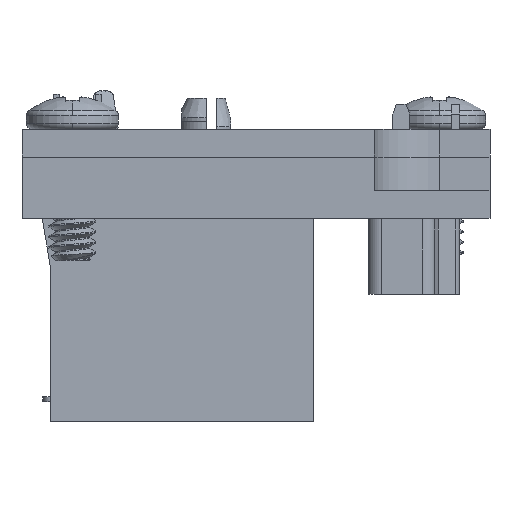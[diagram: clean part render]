
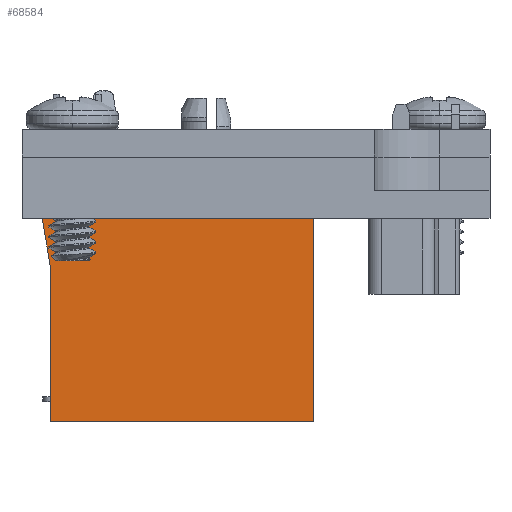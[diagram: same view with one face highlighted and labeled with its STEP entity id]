
A CAD part, front view. The second image highlights one B-rep face of the part: STEP entity #68584.
In plain terms, the highlighted planar face has unit normal (0, -1, 0) as drawn and (1, 0, 0) by its records, which use the part's own axes.
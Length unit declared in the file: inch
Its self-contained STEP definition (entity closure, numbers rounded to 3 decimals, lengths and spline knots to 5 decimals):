
#75 = DIRECTION ( 'NONE',  ( 0., 1., 0. ) ) ;
#1500 = DIRECTION ( 'NONE',  ( 0., -1., 0. ) ) ;
#3058 = EDGE_LOOP ( 'NONE', ( #59377, #80347, #15906, #39242, #50613, #98685, #85255, #30393 ) ) ;
#4485 = CARTESIAN_POINT ( 'NONE',  ( 0.31, -0.325, 0. ) ) ;
#4654 = EDGE_CURVE ( 'NONE', #51238, #18516, #99202, .T. ) ;
#7035 = CARTESIAN_POINT ( 'NONE',  ( 0.31, 0.325, -0.51 ) ) ;
#8308 = DIRECTION ( 'NONE',  ( 0., 0., -1. ) ) ;
#14941 = DIRECTION ( 'NONE',  ( 0., 0., -1. ) ) ;
#15401 = VECTOR ( 'NONE', #1500, 39.37008 ) ;
#15906 = ORIENTED_EDGE ( 'NONE', *, *, #69086, .F. ) ;
#16868 = LINE ( 'NONE', #77845, #15401 ) ;
#18516 = VERTEX_POINT ( 'NONE', #7035 ) ;
#18627 = CARTESIAN_POINT ( 'NONE',  ( 0.31, 0.3, 0. ) ) ;
#20135 = CARTESIAN_POINT ( 'NONE',  ( 0.31, -0.1, -0.63 ) ) ;
#20496 = LINE ( 'NONE', #35912, #77163 ) ;
#21413 = EDGE_CURVE ( 'NONE', #77260, #29156, #48591, .T. ) ;
#26097 = VECTOR ( 'NONE', #14941, 39.37008 ) ;
#26789 = CARTESIAN_POINT ( 'NONE',  ( 0.31, -0.325, -0.56 ) ) ;
#28309 = DIRECTION ( 'NONE',  ( 0., 0., -1. ) ) ;
#29156 = VERTEX_POINT ( 'NONE', #20135 ) ;
#29372 = VECTOR ( 'NONE', #75, 39.37008 ) ;
#30389 = FACE_OUTER_BOUND ( 'NONE', #3058, .T. ) ;
#30393 = ORIENTED_EDGE ( 'NONE', *, *, #65624, .F. ) ;
#31889 = DIRECTION ( 'NONE',  ( 1., 0., 0. ) ) ;
#32924 = CARTESIAN_POINT ( 'NONE',  ( 0.31, -0.1, -0.56 ) ) ;
#34224 = DIRECTION ( 'NONE',  ( 0., -1., 0. ) ) ;
#35912 = CARTESIAN_POINT ( 'NONE',  ( 0.31, -0.1, 0. ) ) ;
#39242 = ORIENTED_EDGE ( 'NONE', *, *, #59800, .T. ) ;
#42845 = CARTESIAN_POINT ( 'NONE',  ( 0.31, 0.3, -0.36 ) ) ;
#48591 = LINE ( 'NONE', #64398, #60297 ) ;
#50613 = ORIENTED_EDGE ( 'NONE', *, *, #21413, .F. ) ;
#51238 = VERTEX_POINT ( 'NONE', #42845 ) ;
#52407 = LINE ( 'NONE', #77412, #26097 ) ;
#55708 = EDGE_CURVE ( 'NONE', #18516, #77260, #52407, .T. ) ;
#56551 = EDGE_CURVE ( 'NONE', #67942, #91792, #99885, .T. ) ;
#58563 = CARTESIAN_POINT ( 'NONE',  ( 0.31, 0.3, -0.36 ) ) ;
#59377 = ORIENTED_EDGE ( 'NONE', *, *, #56551, .F. ) ;
#59800 = EDGE_CURVE ( 'NONE', #69743, #29156, #20496, .T. ) ;
#60297 = VECTOR ( 'NONE', #34224, 39.37008 ) ;
#60365 = DIRECTION ( 'NONE',  ( 0., 0.164, -0.986 ) ) ;
#64398 = CARTESIAN_POINT ( 'NONE',  ( 0.31, -0.1, -0.63 ) ) ;
#65624 = EDGE_CURVE ( 'NONE', #91792, #51238, #67227, .T. ) ;
#65732 = VECTOR ( 'NONE', #28309, 39.37008 ) ;
#66100 = DIRECTION ( 'NONE',  ( 0., 0., -1. ) ) ;
#67227 = LINE ( 'NONE', #58563, #65732 ) ;
#67488 = DIRECTION ( 'NONE',  ( 0., 0., 1. ) ) ;
#67942 = VERTEX_POINT ( 'NONE', #73197 ) ;
#68584 = ADVANCED_FACE ( 'NONE', ( #30389 ), #92791, .T. ) ;
#69057 = CARTESIAN_POINT ( 'NONE',  ( 0.31, 0.325, -0.51 ) ) ;
#69086 = EDGE_CURVE ( 'NONE', #69743, #75207, #16868, .T. ) ;
#69743 = VERTEX_POINT ( 'NONE', #32924 ) ;
#72415 = VECTOR ( 'NONE', #67488, 39.37008 ) ;
#73197 = CARTESIAN_POINT ( 'NONE',  ( 0.31, -0.325, 0. ) ) ;
#75207 = VERTEX_POINT ( 'NONE', #26789 ) ;
#77163 = VECTOR ( 'NONE', #66100, 39.37008 ) ;
#77260 = VERTEX_POINT ( 'NONE', #93162 ) ;
#77412 = CARTESIAN_POINT ( 'NONE',  ( 0.31, 0.325, -0.63 ) ) ;
#77457 = AXIS2_PLACEMENT_3D ( 'NONE', #85101, #31889, #8308 ) ;
#77845 = CARTESIAN_POINT ( 'NONE',  ( 0.31, -0.261, -0.56 ) ) ;
#80347 = ORIENTED_EDGE ( 'NONE', *, *, #100871, .F. ) ;
#82816 = LINE ( 'NONE', #4485, #72415 ) ;
#85101 = CARTESIAN_POINT ( 'NONE',  ( 0.31, 0., 0. ) ) ;
#85255 = ORIENTED_EDGE ( 'NONE', *, *, #4654, .F. ) ;
#88422 = VECTOR ( 'NONE', #60365, 39.37008 ) ;
#91792 = VERTEX_POINT ( 'NONE', #18627 ) ;
#92791 = PLANE ( 'NONE',  #77457 ) ;
#93162 = CARTESIAN_POINT ( 'NONE',  ( 0.31, 0.325, -0.63 ) ) ;
#93262 = CARTESIAN_POINT ( 'NONE',  ( 0.31, 0.3, 0. ) ) ;
#98685 = ORIENTED_EDGE ( 'NONE', *, *, #55708, .F. ) ;
#99202 = LINE ( 'NONE', #69057, #88422 ) ;
#99885 = LINE ( 'NONE', #93262, #29372 ) ;
#100871 = EDGE_CURVE ( 'NONE', #75207, #67942, #82816, .T. ) ;
